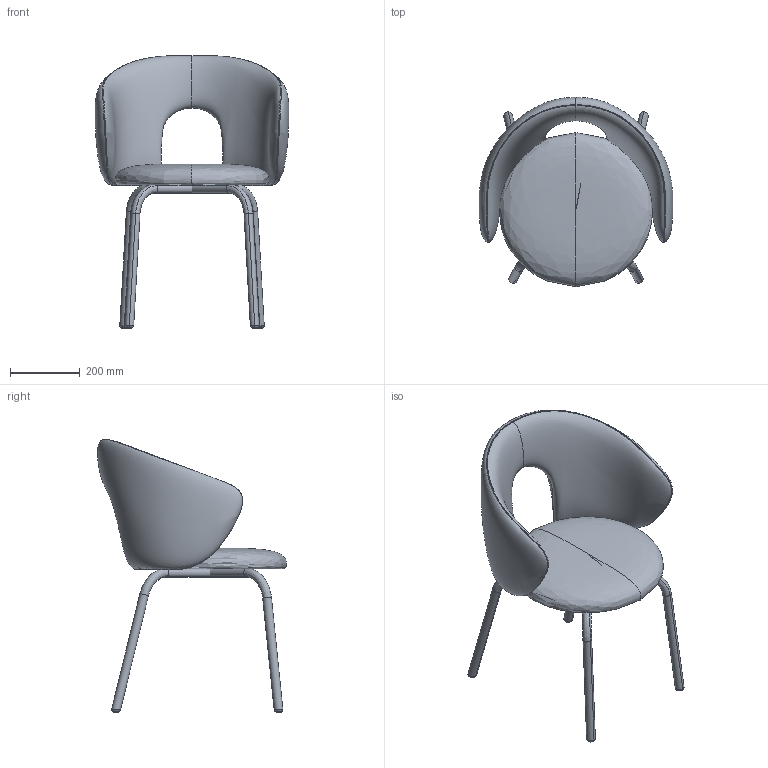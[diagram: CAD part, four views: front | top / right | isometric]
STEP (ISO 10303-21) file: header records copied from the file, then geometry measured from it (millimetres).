
FILE_DESCRIPTION(/* description */ (''),/* implementation_level */ '2;1');
FILE_NAME(/* name */ 'Paulin_MP_PabloReganoStudio',/* time_stamp */ '2026-04-02T07:29:07+02:00',/* author */ (''),/* organization */ (''),/* preprocessor_version */ 'ST-DEVELOPER v19.2',/* originating_system */ 'Rhino 8.5',/* authorisation */ '');
FILE_SCHEMA (('AP242_MANAGED_MODEL_BASED_3D_ENGINEERING_MIM_LF { 1 0 10303 442 3 1 4 }'));
Length unit declared in the file: millimetre
Products named in the file (1): Document
Bounding box: 553.96 x 540.25 x 779.98 mm (x, y, z)
Volume: 7597652 mm3; surface area: 1646652.3 mm2
Topology: 1 solids, 67 shells, 92 faces, 302 edges, 250 vertices
Faces by surface type: bspline 60, plane 16, cylinder 16
Entity records: 112977 total; most frequent: CARTESIAN_POINT 111101, ORIENTED_EDGE 348, EDGE_CURVE 298, VERTEX_POINT 250, DIRECTION 174, AXIS2_PLACEMENT_3D 103, ADVANCED_FACE 92, FACE_OUTER_BOUND 92
